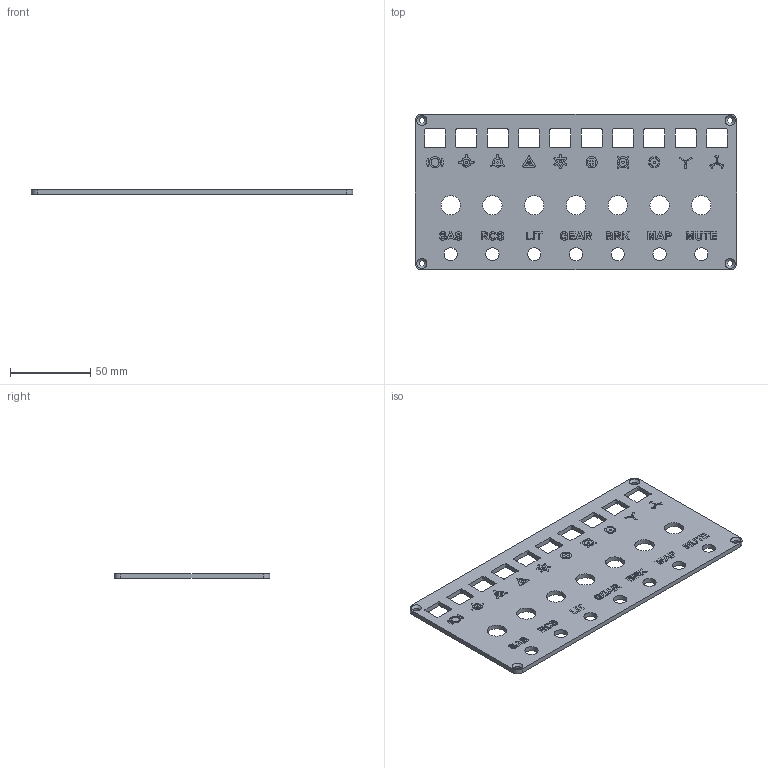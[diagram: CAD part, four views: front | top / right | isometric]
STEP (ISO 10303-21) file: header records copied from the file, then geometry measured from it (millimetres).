
FILE_DESCRIPTION(/* description */ (''),/* implementation_level */ '2;1');
FILE_NAME(/* name */ 'C:/Users/anton/Documents/Kerbal Space Program/Kerbal_Control_Panel/KCP2/CAD/STEPs/ModuleD_v6.step',/* time_stamp */ '2020-11-12T07:47:11-08:00',/* author */ (''),/* organization */ (''),/* preprocessor_version */ 'ST-DEVELOPER v18.1',/* originating_system */ 'Autodesk Translation Framework v9.3.0.1241',/* authorisation */ '');
FILE_SCHEMA (('AUTOMOTIVE_DESIGN { 1 0 10303 214 3 1 1 }'));
Length unit declared in the file: millimetre
Products named in the file (3): D-Plate; Autopilot Labels; Labels
Assembly tree (2 placements, depth 2):
  D-Plate
    Autopilot Labels
    Labels
Bounding box: 200 x 97 x 3.02 mm (x, y, z)
Volume: 50025.7 mm3; surface area: 39017.9 mm2
Topology: 50 solids, 50 shells, 788 faces, 2060 edges, 1372 vertices
Faces by surface type: plane 413, bspline 217, cylinder 154, cone 4
Full cylindrical faces by diameter (mm): 1.5 x7, 3.4 x4, 4 x1, 5 x2, 7 x2, 8.25 x7, 12 x7
Entity records: 26416 total; most frequent: CARTESIAN_POINT 7914, ORIENTED_EDGE 4120, DIRECTION 3090, EDGE_CURVE 2060, VERTEX_POINT 1372, LINE 1314, VECTOR 1314, AXIS2_PLACEMENT_3D 888
